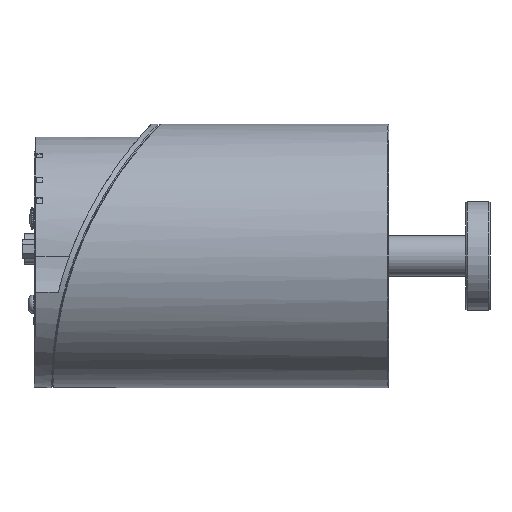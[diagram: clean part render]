
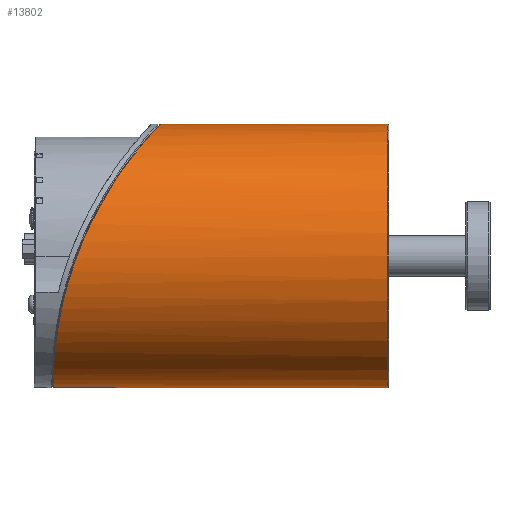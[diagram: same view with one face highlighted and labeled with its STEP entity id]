
A CAD part, left-side view. The second image highlights one B-rep face of the part: STEP entity #13802.
In plain terms, the highlighted cylindrical face has radius 41 mm (diameter 82 mm), a full revolution.
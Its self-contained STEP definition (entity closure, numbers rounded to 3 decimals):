
#294=FACE_BOUND('',#5251,.T.);
#1151=CIRCLE('',#14898,41.);
#3794=CYLINDRICAL_SURFACE('',#14897,41.);
#4365=FACE_OUTER_BOUND('',#5250,.T.);
#5250=EDGE_LOOP('',(#11041));
#5251=EDGE_LOOP('',(#11042));
#5750=B_SPLINE_CURVE_WITH_KNOTS('',3,(#22677,#22678,#22679,#22680,#22681,
#22682,#22683,#22684,#22685,#22686,#22687,#22688,#22689,#22690,#22691,#22692,
#22693,#22694,#22695,#22696,#22697,#22698,#22699,#22700,#22701,#22702,#22703,
#22704,#22705,#22706,#22707,#22708,#22709,#22710),.UNSPECIFIED.,.T.,.F.,
(4,1,1,1,1,1,1,1,1,1,1,1,1,1,1,1,1,1,1,1,1,1,1,1,1,1,1,1,1,1,1,4),(-26.603,
-26.128,-25.653,-25.178,-24.703,
-23.753,-22.803,-22.169,-21.536,
-20.269,-19.636,-19.002,-17.735,
-16.469,-15.202,-13.935,-12.668,
-11.401,-10.135,-8.868,-7.601,
-6.967,-6.334,-5.067,-4.434,
-3.8,-2.85,-1.9,-1.425,
-0.95,-0.475,0.),
 .UNSPECIFIED.);
#6590=VERTEX_POINT('',#22637);
#6592=VERTEX_POINT('',#22712);
#8195=EDGE_CURVE('',#6590,#6590,#5750,.T.);
#8196=EDGE_CURVE('',#6592,#6592,#1151,.T.);
#11041=ORIENTED_EDGE('',*,*,#8195,.F.);
#11042=ORIENTED_EDGE('',*,*,#8196,.F.);
#13802=ADVANCED_FACE('',(#4365,#294),#3794,.T.);
#14897=AXIS2_PLACEMENT_3D('',#22711,#17742,#17743);
#14898=AXIS2_PLACEMENT_3D('',#22713,#17744,#17745);
#17742=DIRECTION('center_axis',(0.,-1.,0.));
#17743=DIRECTION('ref_axis',(-1.,0.,0.));
#17744=DIRECTION('center_axis',(0.,-1.,0.));
#17745=DIRECTION('ref_axis',(-1.,0.,0.));
#22637=CARTESIAN_POINT('',(0.,2.167,41.));
#22677=CARTESIAN_POINT('Ctrl Pts',(0.,2.167,
41.));
#22678=CARTESIAN_POINT('Ctrl Pts',(1.056,2.167,41.));
#22679=CARTESIAN_POINT('Ctrl Pts',(3.187,2.247,40.918));
#22680=CARTESIAN_POINT('Ctrl Pts',(6.597,2.632,40.522));
#22681=CARTESIAN_POINT('Ctrl Pts',(10.654,3.442,39.679));
#22682=CARTESIAN_POINT('Ctrl Pts',(16.678,5.294,37.695));
#22683=CARTESIAN_POINT('Ctrl Pts',(23.855,8.718,33.825));
#22684=CARTESIAN_POINT('Ctrl Pts',(30.337,13.255,27.976));
#22685=CARTESIAN_POINT('Ctrl Pts',(34.786,17.282,22.001));
#22686=CARTESIAN_POINT('Ctrl Pts',(38.589,21.583,14.817));
#22687=CARTESIAN_POINT('Ctrl Pts',(40.685,25.327,7.252));
#22688=CARTESIAN_POINT('Ctrl Pts',(41.144,28.484,-0.697));
#22689=CARTESIAN_POINT('Ctrl Pts',(40.4,31.22,-8.866));
#22690=CARTESIAN_POINT('Ctrl Pts',(37.12,33.67,-18.921));
#22691=CARTESIAN_POINT('Ctrl Pts',(29.505,35.13,-29.441));
#22692=CARTESIAN_POINT('Ctrl Pts',(18.939,35.573,-37.133));
#22693=CARTESIAN_POINT('Ctrl Pts',(6.527,35.598,-41.167));
#22694=CARTESIAN_POINT('Ctrl Pts',(-6.528,35.598,-41.167));
#22695=CARTESIAN_POINT('Ctrl Pts',(-18.938,35.573,-37.133));
#22696=CARTESIAN_POINT('Ctrl Pts',(-29.507,35.13,-29.44));
#22697=CARTESIAN_POINT('Ctrl Pts',(-37.118,33.67,-18.923));
#22698=CARTESIAN_POINT('Ctrl Pts',(-40.401,31.221,-8.866));
#22699=CARTESIAN_POINT('Ctrl Pts',(-41.144,28.484,-0.697));
#22700=CARTESIAN_POINT('Ctrl Pts',(-40.685,25.327,7.252));
#22701=CARTESIAN_POINT('Ctrl Pts',(-38.588,21.583,14.817));
#22702=CARTESIAN_POINT('Ctrl Pts',(-34.786,17.282,22.001));
#22703=CARTESIAN_POINT('Ctrl Pts',(-30.337,13.255,27.976));
#22704=CARTESIAN_POINT('Ctrl Pts',(-23.855,8.718,33.825));
#22705=CARTESIAN_POINT('Ctrl Pts',(-16.678,5.294,37.695));
#22706=CARTESIAN_POINT('Ctrl Pts',(-10.654,3.442,39.679));
#22707=CARTESIAN_POINT('Ctrl Pts',(-6.597,2.632,40.522));
#22708=CARTESIAN_POINT('Ctrl Pts',(-3.187,2.247,40.918));
#22709=CARTESIAN_POINT('Ctrl Pts',(-1.056,2.167,41.));
#22710=CARTESIAN_POINT('Ctrl Pts',(0.,2.167,
41.));
#22711=CARTESIAN_POINT('Origin',(0.,40.8,
0.));
#22712=CARTESIAN_POINT('',(41.,-68.6,0.));
#22713=CARTESIAN_POINT('Origin',(0.,-68.6,
0.));
